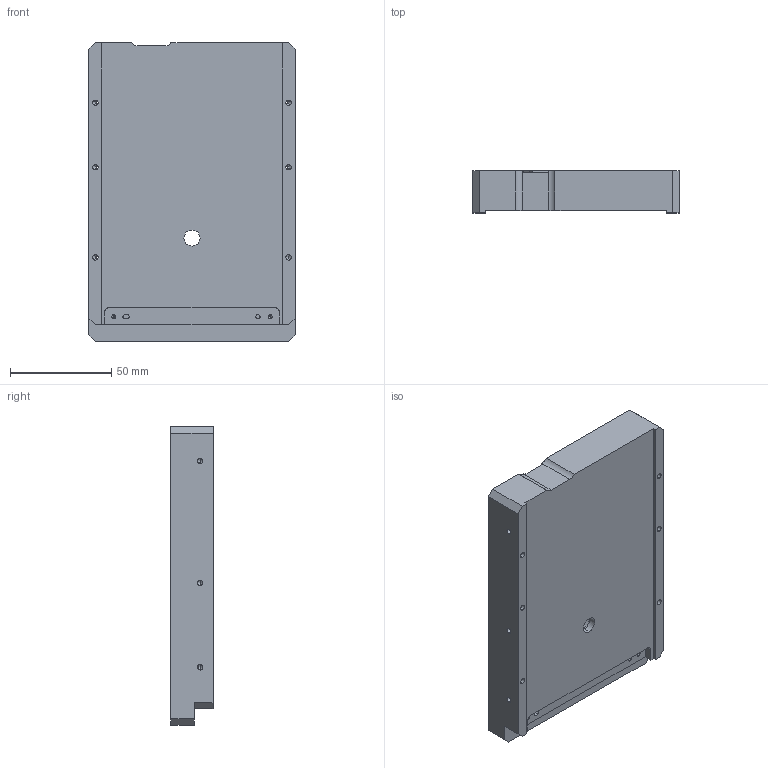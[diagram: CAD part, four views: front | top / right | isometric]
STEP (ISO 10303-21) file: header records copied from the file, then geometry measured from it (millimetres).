
FILE_DESCRIPTION (( 'STEP AP214' ), '1' );
FILE_NAME ('BASE - COMBO SURROGATE - R10 - 10-01-24.STEP', '2024-10-02T03:16:54', ( '' ), ( '' ), 'SwSTEP 2.0', 'SolidWorks 2022', '' );
FILE_SCHEMA (( 'AUTOMOTIVE_DESIGN' ));
Length unit declared in the file: millimetre
Products named in the file (1): BASE - COMBO SURROGATE - R10 - 10-01-24
Bounding box: 101.6 x 20.74 x 147 mm (x, y, z)
Volume: 169549.6 mm3; surface area: 53232.1 mm2
Topology: 1 solids, 1 shells, 549 faces, 1459 edges, 867 vertices
Faces by surface type: plane 223, cylinder 180, cone 52, sphere 48, bspline 35, torus 11
Entity records: 19011 total; most frequent: CARTESIAN_POINT 5230, ORIENTED_EDGE 2746, DIRECTION 2722, EDGE_CURVE 1373, AXIS2_PLACEMENT_3D 924, VECTOR 874, LINE 874, VERTEX_POINT 862
